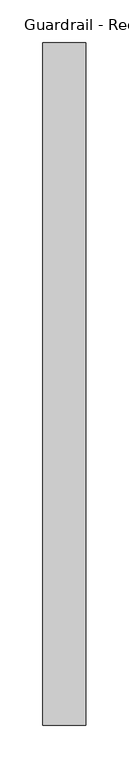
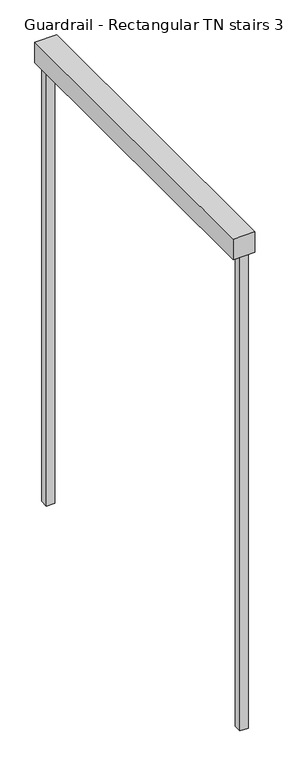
"""IFC4 building model written with IfcOpenShell, lengths in millimetres: railing geometry, Guardrail - Rectangular TN stairs 3."""

from ifc_helpers import new_model, si_unit, frame, origin, place, context, project, spatial, polyline, outline, extrude, source, transform, mapped, element, save


def guardrail_rectangular_tn_stairs_3_ca9888c4(model_context):
    return source(origin(), model_context, "Body", "SweptSolid", [
        extrude(outline(polyline([(-6633.5157069, -12936.8966791), (-6582.7157069, -12936.8966791), (-6582.7157069, -13736.8966791), (-6633.5157069, -13736.8966791), (-6633.5157069, -12936.8966791)])), frame((0.0, 0.0, 6116.0), z_axis=(0.0, 0.0, 1.0), x_axis=(1.0, 0.0, 0.0)), (0.0, 0.0, 1.0), 50.8),
        extrude(outline(polyline([(-6617.6407069, -13717.8716791), (-6598.5907069, -13717.8716791), (-6598.5907069, -13736.9216791), (-6617.6407069, -13736.9216791), (-6617.6407069, -13717.8716791)])), frame((0.0, 0.0, 4950.0), z_axis=(0.0, 0.0, 1.0), x_axis=(1.0, 0.0, 0.0)), (0.0, 0.0, 1.0), 1166.0),
        extrude(outline(polyline([(-6617.6407069, -12936.8716791), (-6598.5907069, -12936.8716791), (-6598.5907069, -12955.9216791), (-6617.6407069, -12955.9216791), (-6617.6407069, -12936.8716791)])), frame((0.0, 0.0, 5030.0), z_axis=(0.0, 0.0, 1.0), x_axis=(1.0, 0.0, 0.0)), (0.0, 0.0, 1.0), 1086.0),
    ])


if __name__ == "__main__":
    model = new_model("IFC4")
    model_context = context("Model", 3, world=origin())
    ifc_project = project(units=[si_unit("LENGTHUNIT", "METRE", prefix="MILLI")], contexts=[model_context])
    site = spatial("IfcSite", under=ifc_project)
    building = spatial("IfcBuilding", under=site)
    placement = place(None, origin())
    guardrail_rectangular_tn_stairs_3_shape = guardrail_rectangular_tn_stairs_3_ca9888c4(model_context)
    element("IfcRailing", 1, ObjectType="Guardrail - Rectangular TN stairs 3", at=placement, inside=building, context=model_context, shape_type="MappedRepresentation", body=[
        mapped(guardrail_rectangular_tn_stairs_3_shape, transform((0.0, 0.0, 0.0), x_axis=(1.0, 0.0, 0.0), y_axis=(0.0, 1.0, 0.0), z_axis=(0.0, 0.0, 1.0))),
    ])
    save(model, "model.ifc")
